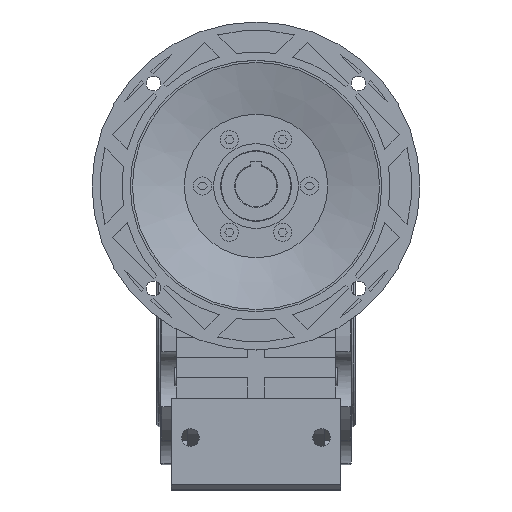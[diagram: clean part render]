
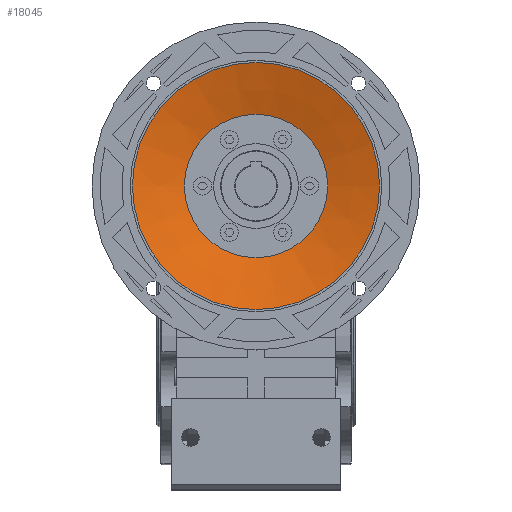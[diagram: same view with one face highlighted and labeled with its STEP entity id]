
A CAD part, top view. The second image highlights one B-rep face of the part: STEP entity #18045.
In plain terms, the highlighted conical face has half-angle 74.114 degrees and reference radius 65.562 mm.
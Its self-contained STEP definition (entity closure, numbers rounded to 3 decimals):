
#57=CONICAL_SURFACE('',#19613,65.563,1.294);
#1855=LINE('',#29799,#3584);
#3584=VECTOR('',#24401,65.563);
#4985=FACE_OUTER_BOUND('',#6093,.T.);
#6093=EDGE_LOOP('',(#15467,#15468,#15469,#15470));
#6688=CIRCLE('',#19600,113.);
#6695=CIRCLE('',#19614,65.563);
#8277=VERTEX_POINT('',#29772);
#8284=VERTEX_POINT('',#29797);
#10676=EDGE_CURVE('',#8277,#8277,#6688,.T.);
#10687=EDGE_CURVE('',#8284,#8284,#6695,.T.);
#10688=EDGE_CURVE('',#8284,#8277,#1855,.T.);
#15467=ORIENTED_EDGE('',*,*,#10687,.T.);
#15468=ORIENTED_EDGE('',*,*,#10688,.T.);
#15469=ORIENTED_EDGE('',*,*,#10676,.F.);
#15470=ORIENTED_EDGE('',*,*,#10688,.F.);
#18045=ADVANCED_FACE('',(#4985),#57,.F.);
#19600=AXIS2_PLACEMENT_3D('',#29773,#24367,#24368);
#19613=AXIS2_PLACEMENT_3D('',#29796,#24397,#24398);
#19614=AXIS2_PLACEMENT_3D('',#29798,#24399,#24400);
#24367=DIRECTION('center_axis',(0.,0.,
-1.));
#24368=DIRECTION('ref_axis',(-1.,0.,0.));
#24397=DIRECTION('center_axis',(0.,0.,
1.));
#24398=DIRECTION('ref_axis',(1.,0.,0.));
#24399=DIRECTION('center_axis',(0.,0.,
-1.));
#24400=DIRECTION('ref_axis',(-1.,0.,0.));
#24401=DIRECTION('',(-0.962,0.,0.274));
#29772=CARTESIAN_POINT('',(131.595,831.832,236.796));
#29773=CARTESIAN_POINT('Origin',(244.595,831.832,236.796));
#29796=CARTESIAN_POINT('Origin',(244.595,831.832,223.296));
#29797=CARTESIAN_POINT('',(179.032,831.832,223.296));
#29798=CARTESIAN_POINT('Origin',(244.595,831.832,223.296));
#29799=CARTESIAN_POINT('',(179.032,831.832,223.296));
